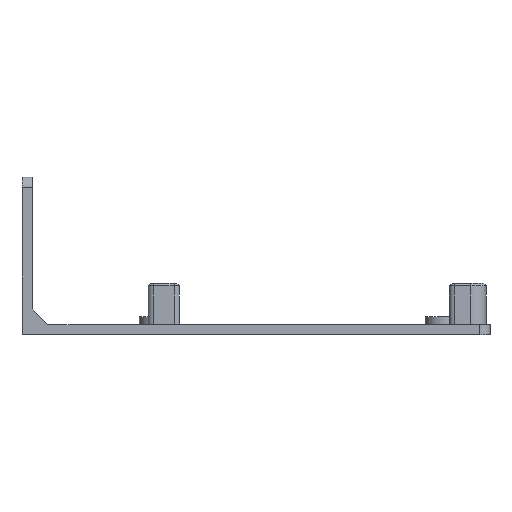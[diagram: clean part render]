
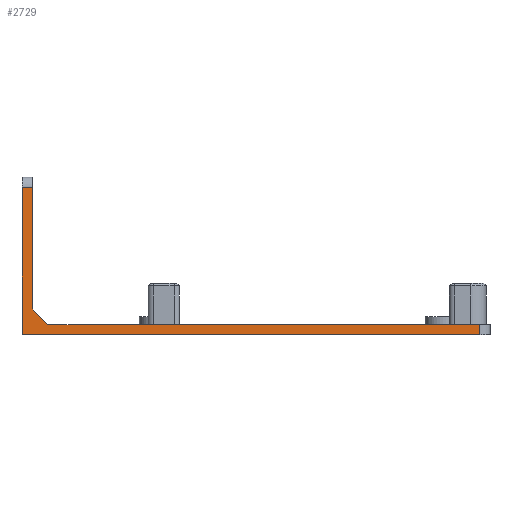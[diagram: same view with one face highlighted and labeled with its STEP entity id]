
A CAD part, front view. The second image highlights one B-rep face of the part: STEP entity #2729.
In plain terms, the highlighted planar face has unit normal (0, -1, 0).
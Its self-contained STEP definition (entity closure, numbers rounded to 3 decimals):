
#45 = VERTEX_POINT ( 'NONE', #1284 ) ;
#265 = VECTOR ( 'NONE', #1837, 1000. ) ;
#268 = EDGE_CURVE ( 'NONE', #4233, #2271, #1931, .T. ) ;
#804 = ORIENTED_EDGE ( 'NONE', *, *, #1622, .T. ) ;
#900 = DIRECTION ( 'NONE',  ( 1., 0., 0. ) ) ;
#1007 = CARTESIAN_POINT ( 'NONE',  ( -45.05, -29.3, 0.5 ) ) ;
#1015 = AXIS2_PLACEMENT_3D ( 'NONE', #4669, #1385, #2830 ) ;
#1116 = DIRECTION ( 'NONE',  ( -1., 0., 0. ) ) ;
#1125 = EDGE_LOOP ( 'NONE', ( #3362, #804, #2946, #3171, #4688, #3077, #4084, #2885 ) ) ;
#1133 = EDGE_CURVE ( 'NONE', #45, #3801, #4333, .T. ) ;
#1196 = EDGE_CURVE ( 'NONE', #45, #2271, #3239, .T. ) ;
#1218 = VECTOR ( 'NONE', #1851, 1000. ) ;
#1259 = EDGE_CURVE ( 'NONE', #4233, #1822, #3135, .T. ) ;
#1284 = CARTESIAN_POINT ( 'NONE',  ( -43.05, -29.3, 28.4 ) ) ;
#1366 = DIRECTION ( 'NONE',  ( 0., 0., 1. ) ) ;
#1385 = DIRECTION ( 'NONE',  ( 0., -1., 0. ) ) ;
#1465 = CARTESIAN_POINT ( 'NONE',  ( -45.05, -29.3, 28.4 ) ) ;
#1504 = AXIS2_PLACEMENT_3D ( 'NONE', #3169, #4648, #1366 ) ;
#1586 = CARTESIAN_POINT ( 'NONE',  ( -40.05, -29.3, 2. ) ) ;
#1622 = EDGE_CURVE ( 'NONE', #3078, #3579, #3216, .T. ) ;
#1638 = DIRECTION ( 'NONE',  ( 1., 0., 0. ) ) ;
#1679 = CARTESIAN_POINT ( 'NONE',  ( -44.55, -29.3, 0. ) ) ;
#1683 = DIRECTION ( 'NONE',  ( 0., 0., -1. ) ) ;
#1822 = VERTEX_POINT ( 'NONE', #2019 ) ;
#1837 = DIRECTION ( 'NONE',  ( 0., 0., -1. ) ) ;
#1851 = DIRECTION ( 'NONE',  ( 0., 0., 1. ) ) ;
#1931 = LINE ( 'NONE', #3393, #2107 ) ;
#2019 = CARTESIAN_POINT ( 'NONE',  ( 43.05, -29.3, 2. ) ) ;
#2093 = CARTESIAN_POINT ( 'NONE',  ( -45.05, -29.3, 2. ) ) ;
#2107 = VECTOR ( 'NONE', #4363, 1000. ) ;
#2192 = CARTESIAN_POINT ( 'NONE',  ( 43.05, -29.3, 0. ) ) ;
#2222 = CARTESIAN_POINT ( 'NONE',  ( -43.05, -29.3, 30.4 ) ) ;
#2236 = CARTESIAN_POINT ( 'NONE',  ( 43.05, -29.3, 2. ) ) ;
#2271 = VERTEX_POINT ( 'NONE', #3785 ) ;
#2408 = VECTOR ( 'NONE', #1683, 1000. ) ;
#2670 = LINE ( 'NONE', #2753, #3411 ) ;
#2729 = ADVANCED_FACE ( 'NONE', ( #3940 ), #4694, .F. ) ;
#2753 = CARTESIAN_POINT ( 'NONE',  ( -45.05, -29.3, 0. ) ) ;
#2798 = CARTESIAN_POINT ( 'NONE',  ( -45.05, -29.3, 2. ) ) ;
#2830 = DIRECTION ( 'NONE',  ( 0., 0., 1. ) ) ;
#2869 = LINE ( 'NONE', #2236, #1218 ) ;
#2885 = ORIENTED_EDGE ( 'NONE', *, *, #1133, .T. ) ;
#2903 = VECTOR ( 'NONE', #1638, 1000. ) ;
#2946 = ORIENTED_EDGE ( 'NONE', *, *, #2961, .T. ) ;
#2961 = EDGE_CURVE ( 'NONE', #3579, #3308, #2670, .T. ) ;
#3077 = ORIENTED_EDGE ( 'NONE', *, *, #268, .T. ) ;
#3078 = VERTEX_POINT ( 'NONE', #1007 ) ;
#3114 = EDGE_CURVE ( 'NONE', #3801, #3078, #4619, .T. ) ;
#3135 = LINE ( 'NONE', #2798, #2903 ) ;
#3169 = CARTESIAN_POINT ( 'NONE',  ( -45.05, -29.3, 2. ) ) ;
#3171 = ORIENTED_EDGE ( 'NONE', *, *, #3717, .T. ) ;
#3216 = CIRCLE ( 'NONE', #1015, 0.5 ) ;
#3239 = LINE ( 'NONE', #2222, #265 ) ;
#3308 = VERTEX_POINT ( 'NONE', #2192 ) ;
#3362 = ORIENTED_EDGE ( 'NONE', *, *, #3114, .T. ) ;
#3393 = CARTESIAN_POINT ( 'NONE',  ( -42.55, -29.3, 4.5 ) ) ;
#3411 = VECTOR ( 'NONE', #900, 1000. ) ;
#3579 = VERTEX_POINT ( 'NONE', #1679 ) ;
#3717 = EDGE_CURVE ( 'NONE', #3308, #1822, #2869, .T. ) ;
#3785 = CARTESIAN_POINT ( 'NONE',  ( -43.05, -29.3, 5. ) ) ;
#3801 = VERTEX_POINT ( 'NONE', #4562 ) ;
#3879 = VECTOR ( 'NONE', #1116, 1000. ) ;
#3940 = FACE_OUTER_BOUND ( 'NONE', #1125, .T. ) ;
#4084 = ORIENTED_EDGE ( 'NONE', *, *, #1196, .F. ) ;
#4233 = VERTEX_POINT ( 'NONE', #1586 ) ;
#4333 = LINE ( 'NONE', #1465, #3879 ) ;
#4363 = DIRECTION ( 'NONE',  ( -0.707, 0., 0.707 ) ) ;
#4562 = CARTESIAN_POINT ( 'NONE',  ( -45.05, -29.3, 28.4 ) ) ;
#4619 = LINE ( 'NONE', #2093, #2408 ) ;
#4648 = DIRECTION ( 'NONE',  ( 0., 1., 0. ) ) ;
#4669 = CARTESIAN_POINT ( 'NONE',  ( -44.55, -29.3, 0.5 ) ) ;
#4688 = ORIENTED_EDGE ( 'NONE', *, *, #1259, .F. ) ;
#4694 = PLANE ( 'NONE',  #1504 ) ;
